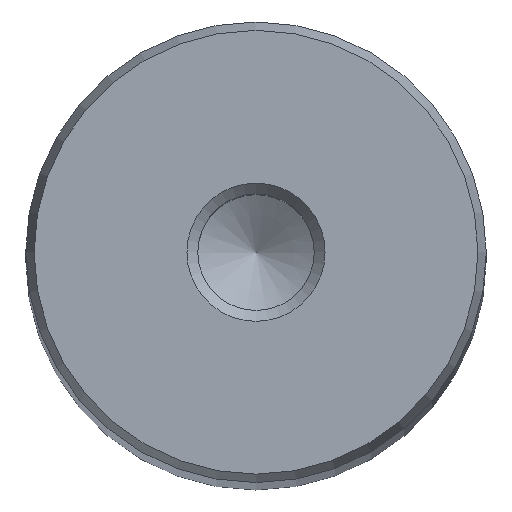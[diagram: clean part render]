
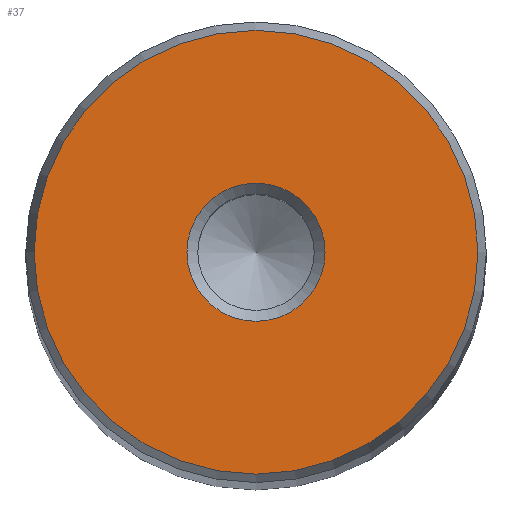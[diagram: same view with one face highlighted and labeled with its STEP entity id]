
A CAD part, top view. The second image highlights one B-rep face of the part: STEP entity #37.
In plain terms, the highlighted planar face has unit normal (0, 0, 1).
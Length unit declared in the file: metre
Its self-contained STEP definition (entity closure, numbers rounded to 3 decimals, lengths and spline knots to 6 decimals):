
#37 = ADVANCED_FACE( '', ( #80, #81 ), #82, .T. );
#80 = FACE_OUTER_BOUND( '', #139, .T. );
#81 = FACE_BOUND( '', #140, .T. );
#82 = PLANE( '', #141 );
#139 = EDGE_LOOP( '', ( #192 ) );
#140 = EDGE_LOOP( '', ( #193 ) );
#141 = AXIS2_PLACEMENT_3D( '', #194, #195, #196 );
#192 = ORIENTED_EDGE( '', *, *, #270, .T. );
#193 = ORIENTED_EDGE( '', *, *, #271, .T. );
#194 = CARTESIAN_POINT( '', ( 0., 0., 0.373 ) );
#195 = DIRECTION( '', ( 0., 0., 1. ) );
#196 = DIRECTION( '', ( 1., 0., 0. ) );
#270 = EDGE_CURVE( '', #297, #297, #298, .T. );
#271 = EDGE_CURVE( '', #299, #299, #300, .T. );
#297 = VERTEX_POINT( '', #334 );
#298 = CIRCLE( '', #335, 0.019272 );
#299 = VERTEX_POINT( '', #336 );
#300 = CIRCLE( '', #337, 0.006 );
#334 = CARTESIAN_POINT( '', ( 0.019272, 0., 0.373 ) );
#335 = AXIS2_PLACEMENT_3D( '', #370, #371, #372 );
#336 = CARTESIAN_POINT( '', ( 0.006, 0., 0.373 ) );
#337 = AXIS2_PLACEMENT_3D( '', #373, #374, #375 );
#370 = CARTESIAN_POINT( '', ( 0., 0., 0.373 ) );
#371 = DIRECTION( '', ( 0., 0., 1. ) );
#372 = DIRECTION( '', ( 1., 0., 0. ) );
#373 = CARTESIAN_POINT( '', ( 0., 0., 0.373 ) );
#374 = DIRECTION( '', ( 0., 0., -1. ) );
#375 = DIRECTION( '', ( 1., 0., 0. ) );
